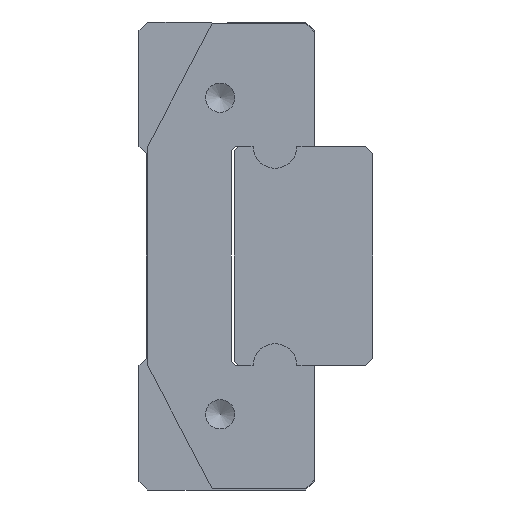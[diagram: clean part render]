
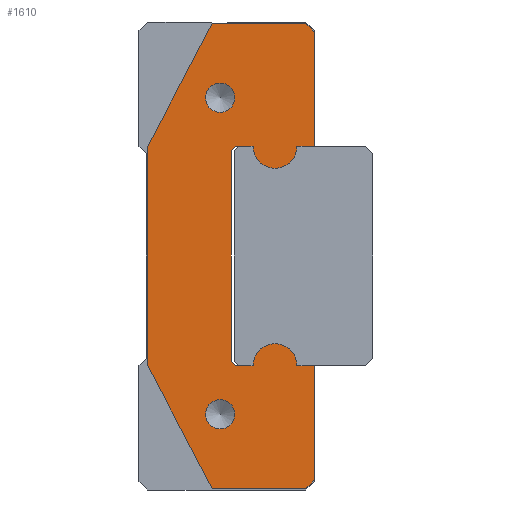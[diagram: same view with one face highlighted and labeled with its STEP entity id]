
A CAD part, left-side view. The second image highlights one B-rep face of the part: STEP entity #1610.
In plain terms, the highlighted planar face has unit normal (-1, 0, 0) as drawn and (0, 0, 1) by its records, which use the part's own axes.
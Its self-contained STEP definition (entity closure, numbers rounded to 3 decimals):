
#117=PLANE('',#1788);
#218=LINE('',#2571,#366);
#222=LINE('',#2580,#370);
#225=LINE('',#2586,#373);
#228=LINE('',#2592,#376);
#232=LINE('',#2604,#380);
#235=LINE('',#2610,#383);
#238=LINE('',#2616,#386);
#241=LINE('',#2622,#389);
#244=LINE('',#2628,#392);
#248=LINE('',#2640,#396);
#251=LINE('',#2646,#399);
#254=LINE('',#2652,#402);
#257=LINE('',#2658,#405);
#260=LINE('',#2664,#408);
#263=LINE('',#2670,#411);
#266=LINE('',#2676,#414);
#366=VECTOR('',#2121,1000.);
#370=VECTOR('',#2127,1000.);
#373=VECTOR('',#2132,1000.);
#376=VECTOR('',#2137,1000.);
#380=VECTOR('',#2149,1000.);
#383=VECTOR('',#2154,1000.);
#386=VECTOR('',#2159,1000.);
#389=VECTOR('',#2164,1000.);
#392=VECTOR('',#2169,1000.);
#396=VECTOR('',#2181,1000.);
#399=VECTOR('',#2186,1000.);
#402=VECTOR('',#2191,1000.);
#405=VECTOR('',#2196,1000.);
#408=VECTOR('',#2201,1000.);
#411=VECTOR('',#2206,1000.);
#414=VECTOR('',#2211,1000.);
#780=ORIENTED_EDGE('',*,*,#1008,.F.);
#781=ORIENTED_EDGE('',*,*,#1009,.F.);
#782=ORIENTED_EDGE('',*,*,#952,.T.);
#783=ORIENTED_EDGE('',*,*,#956,.T.);
#784=ORIENTED_EDGE('',*,*,#959,.T.);
#785=ORIENTED_EDGE('',*,*,#962,.T.);
#786=ORIENTED_EDGE('',*,*,#965,.T.);
#787=ORIENTED_EDGE('',*,*,#968,.T.);
#788=ORIENTED_EDGE('',*,*,#971,.T.);
#789=ORIENTED_EDGE('',*,*,#974,.T.);
#790=ORIENTED_EDGE('',*,*,#977,.T.);
#791=ORIENTED_EDGE('',*,*,#980,.T.);
#792=ORIENTED_EDGE('',*,*,#983,.T.);
#793=ORIENTED_EDGE('',*,*,#986,.T.);
#794=ORIENTED_EDGE('',*,*,#989,.T.);
#795=ORIENTED_EDGE('',*,*,#992,.T.);
#796=ORIENTED_EDGE('',*,*,#995,.T.);
#797=ORIENTED_EDGE('',*,*,#998,.T.);
#798=ORIENTED_EDGE('',*,*,#1001,.T.);
#799=ORIENTED_EDGE('',*,*,#1004,.T.);
#952=EDGE_CURVE('',#1124,#1125,#218,.T.);
#956=EDGE_CURVE('',#1125,#1128,#222,.T.);
#959=EDGE_CURVE('',#1128,#1130,#225,.T.);
#962=EDGE_CURVE('',#1130,#1132,#228,.T.);
#965=EDGE_CURVE('',#1132,#1134,#1208,.T.);
#968=EDGE_CURVE('',#1134,#1136,#232,.T.);
#971=EDGE_CURVE('',#1136,#1138,#235,.T.);
#974=EDGE_CURVE('',#1138,#1140,#238,.T.);
#977=EDGE_CURVE('',#1140,#1142,#241,.T.);
#980=EDGE_CURVE('',#1142,#1144,#244,.T.);
#983=EDGE_CURVE('',#1144,#1146,#1210,.T.);
#986=EDGE_CURVE('',#1146,#1148,#248,.T.);
#989=EDGE_CURVE('',#1148,#1150,#251,.T.);
#992=EDGE_CURVE('',#1150,#1152,#254,.T.);
#995=EDGE_CURVE('',#1152,#1154,#257,.T.);
#998=EDGE_CURVE('',#1154,#1156,#260,.T.);
#1001=EDGE_CURVE('',#1156,#1158,#263,.T.);
#1004=EDGE_CURVE('',#1158,#1124,#266,.T.);
#1008=EDGE_CURVE('',#1162,#1162,#1214,.T.);
#1009=EDGE_CURVE('',#1163,#1163,#1215,.T.);
#1124=VERTEX_POINT('',#2572);
#1125=VERTEX_POINT('',#2573);
#1128=VERTEX_POINT('',#2581);
#1130=VERTEX_POINT('',#2587);
#1132=VERTEX_POINT('',#2593);
#1134=VERTEX_POINT('',#2599);
#1136=VERTEX_POINT('',#2605);
#1138=VERTEX_POINT('',#2611);
#1140=VERTEX_POINT('',#2617);
#1142=VERTEX_POINT('',#2623);
#1144=VERTEX_POINT('',#2629);
#1146=VERTEX_POINT('',#2635);
#1148=VERTEX_POINT('',#2641);
#1150=VERTEX_POINT('',#2647);
#1152=VERTEX_POINT('',#2653);
#1154=VERTEX_POINT('',#2659);
#1156=VERTEX_POINT('',#2665);
#1158=VERTEX_POINT('',#2671);
#1162=VERTEX_POINT('',#2685);
#1163=VERTEX_POINT('',#2687);
#1208=CIRCLE('',#1768,1.5);
#1210=CIRCLE('',#1776,1.5);
#1214=CIRCLE('',#1789,1.);
#1215=CIRCLE('',#1790,1.);
#1339=EDGE_LOOP('',(#780));
#1340=EDGE_LOOP('',(#781));
#1341=EDGE_LOOP('',(#782,#783,#784,#785,#786,#787,#788,#789,#790,#791,#792,
#793,#794,#795,#796,#797,#798,#799));
#1483=FACE_BOUND('',#1339,.T.);
#1484=FACE_BOUND('',#1340,.T.);
#1485=FACE_BOUND('',#1341,.T.);
#1610=ADVANCED_FACE('',(#1483,#1484,#1485),#117,.T.);
#1768=AXIS2_PLACEMENT_3D('',#2598,#2142,#2143);
#1776=AXIS2_PLACEMENT_3D('',#2634,#2174,#2175);
#1788=AXIS2_PLACEMENT_3D('',#2683,#2219,#2220);
#1789=AXIS2_PLACEMENT_3D('',#2684,#2221,#2222);
#1790=AXIS2_PLACEMENT_3D('',#2686,#2223,#2224);
#2121=DIRECTION('',(0.,-1.,0.));
#2127=DIRECTION('',(0.707,-0.707,0.));
#2132=DIRECTION('',(1.,0.,0.));
#2137=DIRECTION('',(0.,1.,0.));
#2142=DIRECTION('',(0.,0.,1.));
#2143=DIRECTION('',(1.,0.,0.));
#2149=DIRECTION('',(0.,1.,0.));
#2154=DIRECTION('',(0.707,0.707,0.));
#2159=DIRECTION('',(1.,0.,0.));
#2164=DIRECTION('',(0.707,-0.707,0.));
#2169=DIRECTION('',(0.,-1.,0.));
#2174=DIRECTION('',(0.,0.,1.));
#2175=DIRECTION('',(1.,0.,0.));
#2181=DIRECTION('',(0.,-1.,0.));
#2186=DIRECTION('',(1.,0.,0.));
#2191=DIRECTION('',(0.707,0.707,0.));
#2196=DIRECTION('',(0.,1.,0.));
#2201=DIRECTION('',(-0.886,0.464,0.));
#2206=DIRECTION('',(-1.,0.,0.));
#2211=DIRECTION('',(-0.886,-0.464,0.));
#2219=DIRECTION('',(0.,0.,1.));
#2220=DIRECTION('',(1.,0.,0.));
#2221=DIRECTION('',(0.,0.,1.));
#2222=DIRECTION('',(1.,0.,0.));
#2223=DIRECTION('',(0.,0.,1.));
#2224=DIRECTION('',(1.,0.,0.));
#2571=CARTESIAN_POINT('',(-15.9,7.,0.));
#2572=CARTESIAN_POINT('',(-15.9,7.,0.));
#2573=CARTESIAN_POINT('',(-15.9,0.6,0.));
#2580=CARTESIAN_POINT('',(-15.9,0.6,0.));
#2581=CARTESIAN_POINT('',(-15.3,0.,0.));
#2586=CARTESIAN_POINT('',(-15.3,0.,0.));
#2587=CARTESIAN_POINT('',(-7.5,0.,0.));
#2592=CARTESIAN_POINT('',(-7.5,0.,0.));
#2593=CARTESIAN_POINT('',(-7.5,1.2,0.));
#2598=CARTESIAN_POINT('',(-7.5,2.7,0.));
#2599=CARTESIAN_POINT('',(-7.5,4.2,0.));
#2604=CARTESIAN_POINT('',(-7.5,4.2,0.));
#2605=CARTESIAN_POINT('',(-7.5,5.4,0.));
#2610=CARTESIAN_POINT('',(-7.5,5.4,0.));
#2611=CARTESIAN_POINT('',(-7.2,5.7,0.));
#2616=CARTESIAN_POINT('',(-7.2,5.7,0.));
#2617=CARTESIAN_POINT('',(7.2,5.7,0.));
#2622=CARTESIAN_POINT('',(7.2,5.7,0.));
#2623=CARTESIAN_POINT('',(7.5,5.4,0.));
#2628=CARTESIAN_POINT('',(7.5,5.4,0.));
#2629=CARTESIAN_POINT('',(7.5,4.2,0.));
#2634=CARTESIAN_POINT('',(7.5,2.7,0.));
#2635=CARTESIAN_POINT('',(7.5,1.2,0.));
#2640=CARTESIAN_POINT('',(7.5,1.2,0.));
#2641=CARTESIAN_POINT('',(7.5,0.,0.));
#2646=CARTESIAN_POINT('',(7.5,0.,0.));
#2647=CARTESIAN_POINT('',(15.3,0.,0.));
#2652=CARTESIAN_POINT('',(15.3,0.,0.));
#2653=CARTESIAN_POINT('',(15.9,0.6,0.));
#2658=CARTESIAN_POINT('',(15.9,0.6,0.));
#2659=CARTESIAN_POINT('',(15.9,7.,0.));
#2664=CARTESIAN_POINT('',(15.9,7.,0.));
#2665=CARTESIAN_POINT('',(7.5,11.4,0.));
#2670=CARTESIAN_POINT('',(7.5,11.4,0.));
#2671=CARTESIAN_POINT('',(-7.5,11.4,0.));
#2676=CARTESIAN_POINT('',(-7.5,11.4,0.));
#2683=CARTESIAN_POINT('',(-7.5,2.7,0.));
#2684=CARTESIAN_POINT('',(-10.825,6.45,0.));
#2685=CARTESIAN_POINT('',(-9.825,6.45,0.));
#2686=CARTESIAN_POINT('',(10.825,6.45,0.));
#2687=CARTESIAN_POINT('',(11.825,6.45,0.));
